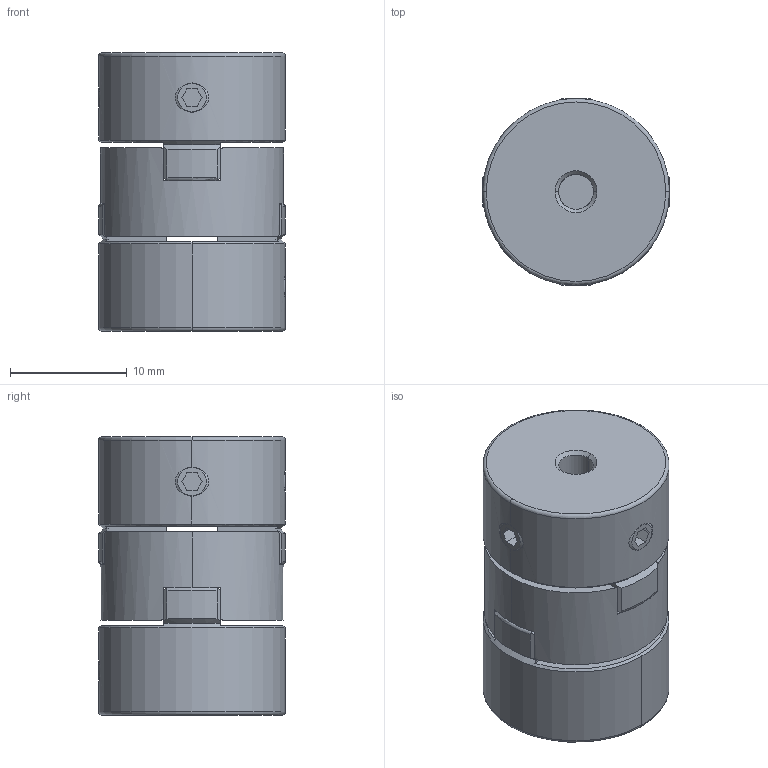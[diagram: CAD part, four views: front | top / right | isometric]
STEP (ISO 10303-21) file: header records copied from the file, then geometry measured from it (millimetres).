
FILE_DESCRIPTION (( 'STEP AP203' ), '1' );
FILE_NAME ('SOH-16SS-3X6_203.STEP', '2013-01-24T01:09:05', ( '' ), ( '' ), 'SwSTEP 2.0', 'SolidWorks 2012', '' );
FILE_SCHEMA (( 'CONFIG_CONTROL_DESIGN' ));
Length unit declared in the file: millimetre
Products named in the file (1): SOH-16SS-3X6_203
Bounding box: 16 x 16 x 23.9 mm (x, y, z)
Volume: 3996 mm3; surface area: 2701.9 mm2
Topology: 1 solids, 1 shells, 169 faces, 487 edges, 311 vertices
Faces by surface type: plane 78, cylinder 51, cone 20, torus 12, sphere 8
Entity records: 6095 total; most frequent: CARTESIAN_POINT 1623, ORIENTED_EDGE 974, DIRECTION 869, EDGE_CURVE 487, AXIS2_PLACEMENT_3D 311, VERTEX_POINT 311, VECTOR 247, LINE 247
